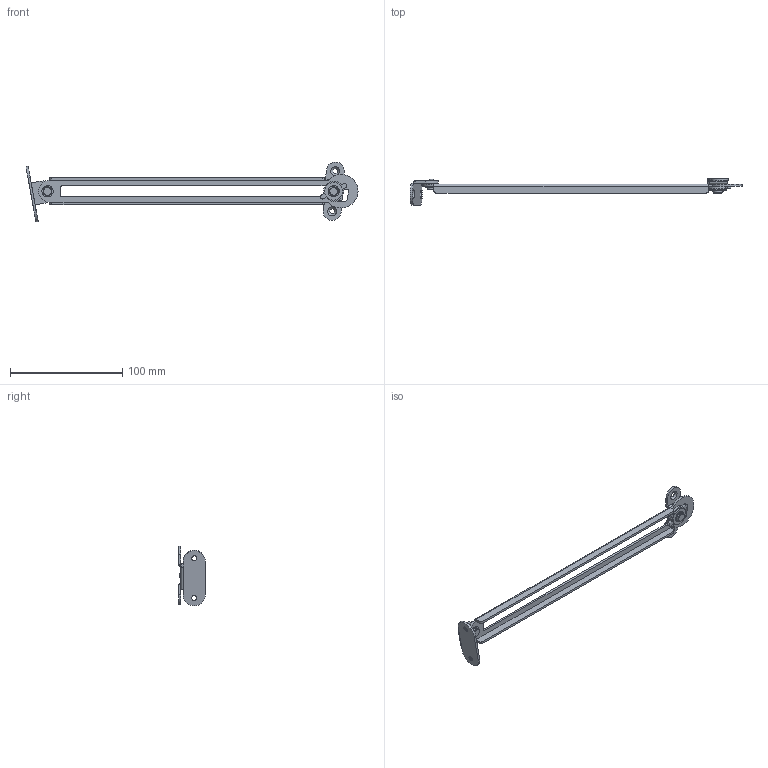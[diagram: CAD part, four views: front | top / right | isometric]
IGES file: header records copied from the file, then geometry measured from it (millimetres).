
Global section: file name: No Iges File Name specified; native system: AutoDesk Inventor R11.0; preprocessor: AutoDesk Inventor Iges Exporter R11.0; author: No Author specified; organization: No Organization specified; date: 20130711.154952; units: millimetre
Bounding box: 296.19 x 24 x 53.18 mm (x, y, z)
Volume: 18995.5 mm3; surface area: 23222.9 mm2
Topology: 11 solids, 11 shells, 165 faces, 380 edges, 241 vertices
Faces by surface type: plane 72, cylinder 46, revolution 40, cone 4, bspline 2, sphere 1
